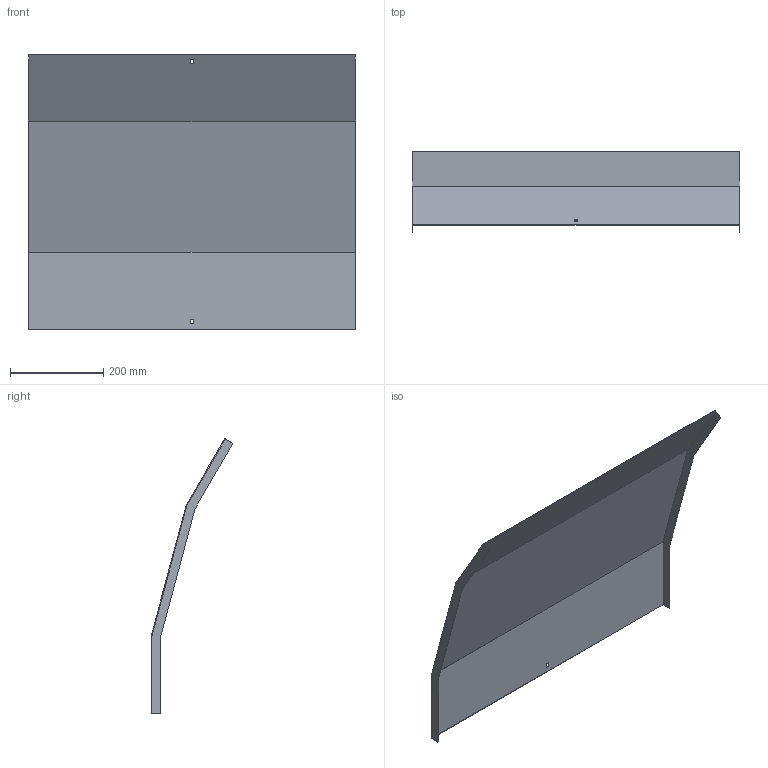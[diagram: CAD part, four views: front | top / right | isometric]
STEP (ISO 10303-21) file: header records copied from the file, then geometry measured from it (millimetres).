
FILE_DESCRIPTION (( 'STEP AP214' ), '1' );
FILE_NAME ('35N5D700.step', '2025-02-21T10:29:19', ( '' ), ( '' ), 'SwSTEP 2.0', 'SolidWorks 2023', '' );
FILE_SCHEMA (( 'AUTOMOTIVE_DESIGN' ));
Length unit declared in the file: millimetre
Products named in the file (1): 35N5D700
Bounding box: 703 x 175.26 x 589.45 mm (x, y, z)
Volume: 688994.6 mm3; surface area: 922806.6 mm2
Topology: 1 solids, 1 shells, 26 faces, 72 edges, 48 vertices
Faces by surface type: plane 26
Entity records: 847 total; most frequent: CARTESIAN_POINT 147, ORIENTED_EDGE 144, DIRECTION 126, VECTOR 72, EDGE_CURVE 72, LINE 72, VERTEX_POINT 48, EDGE_LOOP 30
